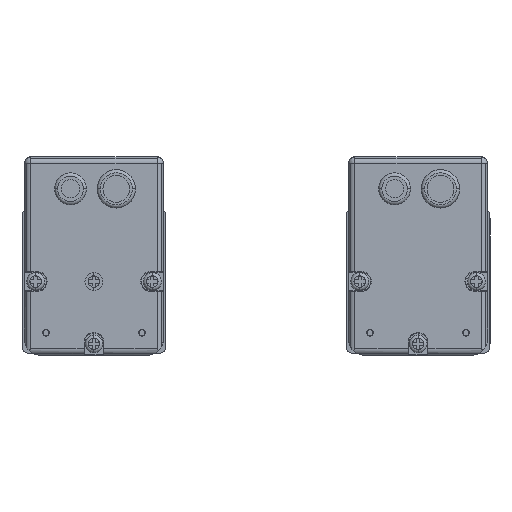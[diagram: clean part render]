
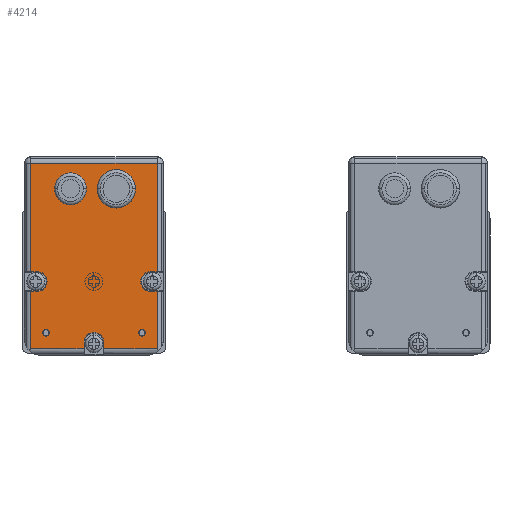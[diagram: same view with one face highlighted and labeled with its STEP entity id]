
A CAD part, left-side view. The second image highlights one B-rep face of the part: STEP entity #4214.
In plain terms, the highlighted planar face has unit normal (-1, 0, 0).
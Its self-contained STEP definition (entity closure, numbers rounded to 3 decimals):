
#4214=ADVANCED_FACE('',(#8254,#8255,#8256),#8257,.F.);
#8254=FACE_OUTER_BOUND('',#19714,.T.);
#8255=FACE_BOUND('',#19715,.T.);
#8256=FACE_BOUND('',#19716,.T.);
#8257=PLANE('',#19717);
#19714=EDGE_LOOP('',(#33064,#33065,#33066,#33067,#33068,#33069,#33070,#33071,#33072,#33073,#33074,#33075,#33076,#33077,#33078,#33079,#33080));
#19715=EDGE_LOOP('',(#33081,#33082));
#19716=EDGE_LOOP('',(#33083,#33084));
#19717=AXIS2_PLACEMENT_3D('',#33085,#33086,#33087);
#33064=ORIENTED_EDGE('',*,*,#36909,.F.);
#33065=ORIENTED_EDGE('',*,*,#37382,.F.);
#33066=ORIENTED_EDGE('',*,*,#35706,.F.);
#33067=ORIENTED_EDGE('',*,*,#35398,.F.);
#33068=ORIENTED_EDGE('',*,*,#34937,.F.);
#33069=ORIENTED_EDGE('',*,*,#38267,.F.);
#33070=ORIENTED_EDGE('',*,*,#38216,.F.);
#33071=ORIENTED_EDGE('',*,*,#35427,.F.);
#33072=ORIENTED_EDGE('',*,*,#37437,.F.);
#33073=ORIENTED_EDGE('',*,*,#37489,.F.);
#33074=ORIENTED_EDGE('',*,*,#37691,.F.);
#33075=ORIENTED_EDGE('',*,*,#33928,.F.);
#33076=ORIENTED_EDGE('',*,*,#36433,.F.);
#33077=ORIENTED_EDGE('',*,*,#35016,.F.);
#33078=ORIENTED_EDGE('',*,*,#35390,.F.);
#33079=ORIENTED_EDGE('',*,*,#37063,.F.);
#33080=ORIENTED_EDGE('',*,*,#38397,.F.);
#33081=ORIENTED_EDGE('',*,*,#38339,.F.);
#33082=ORIENTED_EDGE('',*,*,#37255,.F.);
#33083=ORIENTED_EDGE('',*,*,#36566,.F.);
#33084=ORIENTED_EDGE('',*,*,#35564,.F.);
#33085=CARTESIAN_POINT('',(61.25,103.798,67.78));
#33086=DIRECTION('',(1.0,0.0,0.0));
#33087=DIRECTION('',(0.0,0.0,-1.0));
#33928=EDGE_CURVE('',#38622,#38624,#38625,.T.);
#34937=EDGE_CURVE('',#40392,#40395,#40396,.T.);
#35016=EDGE_CURVE('',#40531,#40533,#40534,.T.);
#35390=EDGE_CURVE('',#41122,#40531,#41124,.T.);
#35398=EDGE_CURVE('',#40395,#41135,#41136,.T.);
#35427=EDGE_CURVE('',#41182,#41184,#41185,.T.);
#35564=EDGE_CURVE('',#41399,#41401,#41402,.T.);
#35706=EDGE_CURVE('',#41135,#41630,#41631,.T.);
#36433=EDGE_CURVE('',#40533,#38622,#42724,.T.);
#36566=EDGE_CURVE('',#41401,#41399,#42903,.T.);
#36909=EDGE_CURVE('',#39442,#43371,#43372,.T.);
#37063=EDGE_CURVE('',#43567,#41122,#43569,.T.);
#37255=EDGE_CURVE('',#43810,#43812,#43813,.T.);
#37382=EDGE_CURVE('',#41630,#39442,#43976,.T.);
#37437=EDGE_CURVE('',#39568,#41182,#44053,.T.);
#37489=EDGE_CURVE('',#44119,#39568,#44121,.T.);
#37691=EDGE_CURVE('',#38624,#44119,#44363,.T.);
#38216=EDGE_CURVE('',#41184,#44959,#44960,.T.);
#38267=EDGE_CURVE('',#44959,#40392,#45011,.T.);
#38339=EDGE_CURVE('',#43812,#43810,#45085,.T.);
#38397=EDGE_CURVE('',#43371,#43567,#45144,.T.);
#38622=VERTEX_POINT('',#46435);
#38624=VERTEX_POINT('',#46437);
#38625=LINE('',#46438,#46439);
#39442=VERTEX_POINT('',#52589);
#39568=VERTEX_POINT('',#53757);
#40392=VERTEX_POINT('',#56862);
#40395=VERTEX_POINT('',#56865);
#40396=CIRCLE('',#56866,3.1);
#40531=VERTEX_POINT('',#59044);
#40533=VERTEX_POINT('',#59046);
#40534=LINE('',#59047,#59048);
#41122=VERTEX_POINT('',#67928);
#41124=LINE('',#67930,#67931);
#41135=VERTEX_POINT('',#67946);
#41136=LINE('',#67947,#67948);
#41182=VERTEX_POINT('',#68015);
#41184=VERTEX_POINT('',#68017);
#41185=LINE('',#68018,#68019);
#41399=VERTEX_POINT('',#68361);
#41401=VERTEX_POINT('',#68363);
#41402=CIRCLE('',#68364,1.1);
#41630=VERTEX_POINT('',#69687);
#41631=LINE('',#69688,#69689);
#42724=LINE('',#84462,#84463);
#42903=CIRCLE('',#88243,1.1);
#43371=VERTEX_POINT('',#91880);
#43372=LINE('',#91881,#91882);
#43567=VERTEX_POINT('',#93163);
#43569=LINE('',#93165,#93166);
#43810=VERTEX_POINT('',#95488);
#43812=VERTEX_POINT('',#95490);
#43813=CIRCLE('',#95491,1.1);
#43976=LINE('',#101230,#101231);
#44053=LINE('',#101860,#101861);
#44119=VERTEX_POINT('',#108713);
#44121=LINE('',#108715,#108716);
#44363=CIRCLE('',#110559,3.1);
#44959=VERTEX_POINT('',#119389);
#44960=LINE('',#119390,#119391);
#45011=CIRCLE('',#119451,3.1);
#45085=CIRCLE('',#119542,1.1);
#45144=CIRCLE('',#119610,3.1);
#46435=CARTESIAN_POINT('',(61.25,84.048,62.88));
#46437=CARTESIAN_POINT('',(61.25,86.048,62.88));
#46438=CARTESIAN_POINT('',(61.25,94.673,62.88));
#46439=VECTOR('',#120328,1.0);
#52589=CARTESIAN_POINT('',(61.25,123.548,56.68));
#53757=CARTESIAN_POINT('',(61.25,84.048,56.68));
#56862=CARTESIAN_POINT('',(61.25,103.798,43.88));
#56865=CARTESIAN_POINT('',(61.25,106.898,40.78));
#56866=AXIS2_PLACEMENT_3D('',#121816,#121817,#121818);
#59044=CARTESIAN_POINT('',(61.25,123.548,96.78));
#59046=CARTESIAN_POINT('',(61.25,84.048,96.78));
#59047=CARTESIAN_POINT('',(61.25,103.798,96.78));
#59048=VECTOR('',#121950,1.0);
#67928=CARTESIAN_POINT('',(61.25,123.548,62.88));
#67930=CARTESIAN_POINT('',(61.25,123.548,67.78));
#67931=VECTOR('',#122491,1.0);
#67946=CARTESIAN_POINT('',(61.25,106.898,38.78));
#67947=CARTESIAN_POINT('',(61.25,106.898,54.03));
#67948=VECTOR('',#122499,1.0);
#68015=CARTESIAN_POINT('',(61.25,84.048,38.78));
#68017=CARTESIAN_POINT('',(61.25,100.698,38.78));
#68018=CARTESIAN_POINT('',(61.25,103.798,38.78));
#68019=VECTOR('',#122537,1.0);
#68361=CARTESIAN_POINT('',(61.25,118.798,42.68));
#68363=CARTESIAN_POINT('',(61.25,118.798,44.88));
#68364=AXIS2_PLACEMENT_3D('',#122725,#122726,#122727);
#69687=CARTESIAN_POINT('',(61.25,123.548,38.78));
#69688=CARTESIAN_POINT('',(61.25,103.798,38.78));
#69689=VECTOR('',#122914,1.0);
#84462=CARTESIAN_POINT('',(61.25,84.048,67.78));
#84463=VECTOR('',#123920,1.0);
#88243=AXIS2_PLACEMENT_3D('',#124079,#124080,#124081);
#91880=CARTESIAN_POINT('',(61.25,121.548,56.68));
#91881=CARTESIAN_POINT('',(61.25,112.923,56.68));
#91882=VECTOR('',#124597,1.0);
#93163=CARTESIAN_POINT('',(61.25,121.548,62.88));
#93165=CARTESIAN_POINT('',(61.25,112.923,62.88));
#93166=VECTOR('',#124810,1.0);
#95488=CARTESIAN_POINT('',(61.25,88.798,42.68));
#95490=CARTESIAN_POINT('',(61.25,88.798,44.88));
#95491=AXIS2_PLACEMENT_3D('',#125061,#125062,#125063);
#101230=CARTESIAN_POINT('',(61.25,123.548,67.78));
#101231=VECTOR('',#125220,1.0);
#101860=CARTESIAN_POINT('',(61.25,84.048,67.78));
#101861=VECTOR('',#125299,1.0);
#108713=CARTESIAN_POINT('',(61.25,86.048,56.68));
#108715=CARTESIAN_POINT('',(61.25,94.673,56.68));
#108716=VECTOR('',#125348,1.0);
#110559=AXIS2_PLACEMENT_3D('',#125551,#125552,#125553);
#119389=CARTESIAN_POINT('',(61.25,100.698,40.78));
#119390=CARTESIAN_POINT('',(61.25,100.698,54.03));
#119391=VECTOR('',#126097,1.0);
#119451=AXIS2_PLACEMENT_3D('',#126134,#126135,#126136);
#119542=AXIS2_PLACEMENT_3D('',#126169,#126170,#126171);
#119610=AXIS2_PLACEMENT_3D('',#126199,#126200,#126201);
#120328=DIRECTION('',(0.0,1.0,0.0));
#121816=CARTESIAN_POINT('',(61.25,103.798,40.78));
#121817=DIRECTION('',(-1.0,0.0,0.0));
#121818=DIRECTION('',(0.0,0.0,1.0));
#121950=DIRECTION('',(0.0,-1.0,0.0));
#122491=DIRECTION('',(0.0,0.0,1.0));
#122499=DIRECTION('',(0.0,0.0,-1.0));
#122537=DIRECTION('',(0.0,1.0,0.0));
#122725=CARTESIAN_POINT('',(61.25,118.798,43.78));
#122726=DIRECTION('',(-1.0,0.0,0.0));
#122727=DIRECTION('',(0.0,0.0,-1.0));
#122914=DIRECTION('',(0.0,1.0,0.0));
#123920=DIRECTION('',(0.0,0.0,-1.0));
#124079=CARTESIAN_POINT('',(61.25,118.798,43.78));
#124080=DIRECTION('',(-1.0,0.0,0.0));
#124081=DIRECTION('',(0.0,0.0,-1.0));
#124597=DIRECTION('',(0.0,-1.0,0.0));
#124810=DIRECTION('',(0.0,1.0,0.0));
#125061=CARTESIAN_POINT('',(61.25,88.798,43.78));
#125062=DIRECTION('',(-1.0,0.0,0.0));
#125063=DIRECTION('',(0.0,0.0,-1.0));
#125220=DIRECTION('',(0.0,0.0,1.0));
#125299=DIRECTION('',(0.0,0.0,-1.0));
#125348=DIRECTION('',(0.0,-1.0,0.0));
#125551=CARTESIAN_POINT('',(61.25,86.048,59.78));
#125552=DIRECTION('',(-1.0,0.0,0.0));
#125553=DIRECTION('',(0.0,1.0,0.));
#126097=DIRECTION('',(0.0,0.0,1.0));
#126134=CARTESIAN_POINT('',(61.25,103.798,40.78));
#126135=DIRECTION('',(-1.0,0.0,0.0));
#126136=DIRECTION('',(0.0,0.0,1.0));
#126169=CARTESIAN_POINT('',(61.25,88.798,43.78));
#126170=DIRECTION('',(-1.0,0.0,0.0));
#126171=DIRECTION('',(0.0,0.0,-1.0));
#126199=CARTESIAN_POINT('',(61.25,121.548,59.78));
#126200=DIRECTION('',(-1.0,-0.0,0.0));
#126201=DIRECTION('',(0.0,-1.0,0.));
